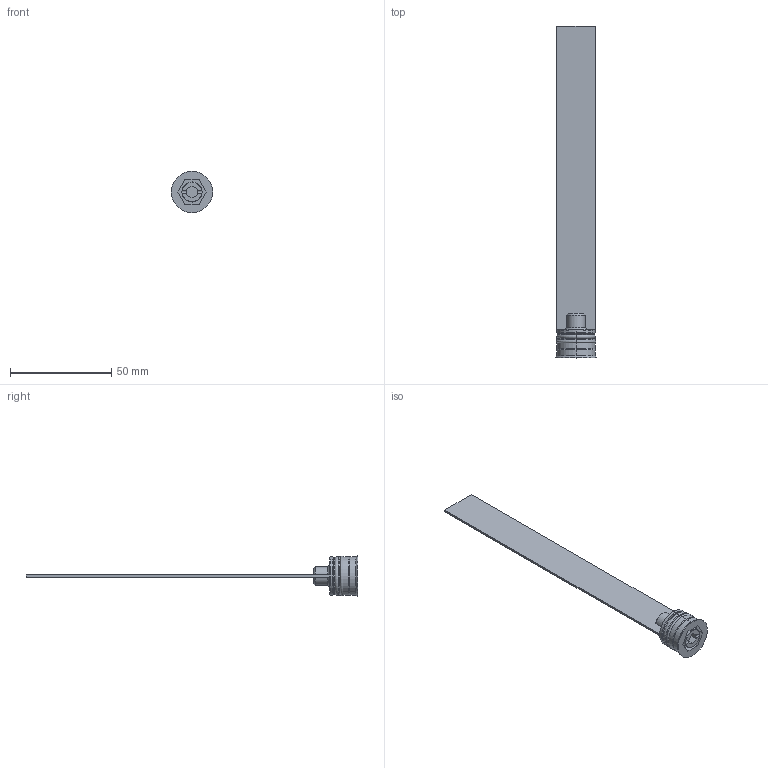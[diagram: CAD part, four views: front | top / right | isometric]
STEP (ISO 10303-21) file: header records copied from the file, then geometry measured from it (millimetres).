
FILE_DESCRIPTION (( 'STEP AP203' ), '1' );
FILE_NAME ('RL-19Fx150.STEP', '2015-12-04T10:03:19', ( 'Balzi' ), ( '' ), 'SwSTEP 2.0', 'SolidWorks 2015', '' );
FILE_SCHEMA (( 'CONFIG_CONTROL_DESIGN' ));
Length unit declared in the file: millimetre
Products named in the file (1): RL-19Fx150
Bounding box: 20.5 x 164 x 20.5 mm (x, y, z)
Volume: 6886.2 mm3; surface area: 8077.4 mm2
Topology: 1 solids, 1 shells, 75 faces, 177 edges, 109 vertices
Faces by surface type: plane 31, cone 19, cylinder 17, torus 8
Entity records: 2245 total; most frequent: CARTESIAN_POINT 412, DIRECTION 386, ORIENTED_EDGE 354, EDGE_CURVE 177, AXIS2_PLACEMENT_3D 147, VERTEX_POINT 109, LINE 92, VECTOR 92
